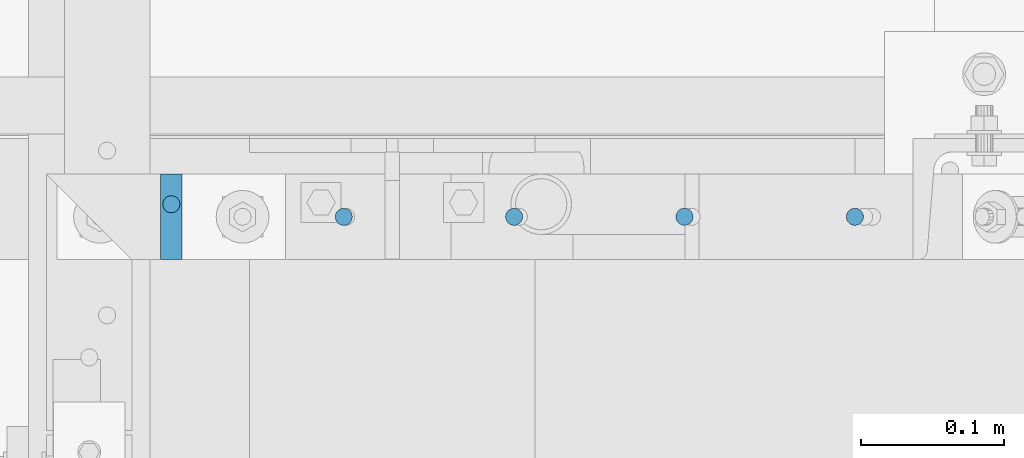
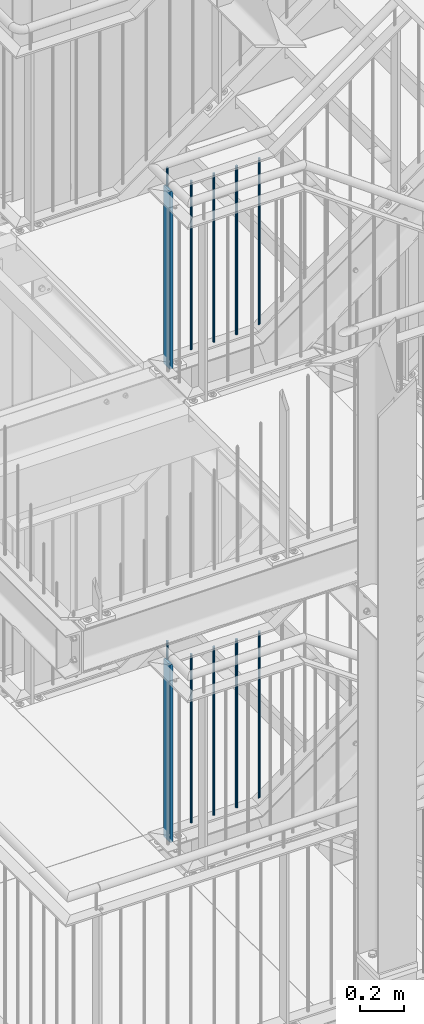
# One storey, part 26 of 821: 12 columns.
"""IFC2X3 building model written with IfcOpenShell, lengths in millimetres."""

import ifcopenshell
import ifcopenshell.guid

model = None  # the IFC model being written
_history = None  # IfcOwnerHistory: only IFC2X3 demands one
_inside = {}  # id of a spatial element -> (the spatial element, [elements in it])
_under = {}  # id of a project, library or spatial element -> (it, [spatial elements below it])
_declared = {}  # id of a project -> (the project, [libraries it declares])
_typed = {}  # id of a type object -> (the type object, [elements of that type])
_made_of = {}  # id of a material, layer set ... -> (it, [elements and type objects made of it])


def new_model(schema):
    """Start an empty IFC model of exactly this schema.

    Asked for "IFC4X3", IfcOpenShell would pick the latest addendum, in which some entities
    have other attributes; the version numbers below select the first issue.
    IFC2X3 requires an IfcOwnerHistory on every rooted entity: one is made here for all.
    """
    global model, _history
    if schema == "IFC4X3":
        model = ifcopenshell.file(schema_version=(4, 3, 0, 0))
    else:
        model = ifcopenshell.file(schema=schema)
    _inside.clear()
    _under.clear()
    _declared.clear()
    _typed.clear()
    _made_of.clear()
    _history = None
    if model.schema == "IFC2X3":
        org = make("IfcOrganization", Name="unknown")
        user = make(
            "IfcPersonAndOrganization",
            ThePerson=make("IfcPerson", FamilyName="unknown"),
            TheOrganization=org,
        )
        app = make(
            "IfcApplication",
            ApplicationDeveloper=org,
            Version="unknown",
            ApplicationFullName="unknown",
            ApplicationIdentifier="unknown",
        )
        _history = make(
            "IfcOwnerHistory",
            OwningUser=user,
            OwningApplication=app,
            ChangeAction="ADDED",
            CreationDate=0,
        )
    return model


def make(cls, **values):
    """One entity of the class cls with the attributes given. An attribute that is None is left unset."""
    return model.create_entity(
        cls, **{name: value for name, value in values.items() if value is not None}
    )


def entity(cls, *values):
    """Any entity or typed value of the class cls, its attributes in the order of the schema. None: left unset."""
    e = model.create_entity(cls)
    for i, value in enumerate(values):
        if value is not None:
            e[i] = value
    return e


def rooted(cls, **values):
    """An entity with a GlobalId (a new one), such as an element, a storey or a relation."""
    return make(cls, GlobalId=ifcopenshell.guid.new(), OwnerHistory=_history, **values)


def si_unit(unit_type, name, prefix=None):
    """IfcSIUnit, for example si_unit("LENGTHUNIT", "METRE", prefix="MILLI")."""
    return make("IfcSIUnit", UnitType=unit_type, Prefix=prefix, Name=name)


def converted_unit(unit_type, name, factor, base, dimensions=None, offset=None):
    """IfcConversionBasedUnit, such as the inch: factor (a typed value) times the base unit."""
    return make(
        "IfcConversionBasedUnit"
        if offset is None
        else "IfcConversionBasedUnitWithOffset",
        ConversionOffset=offset,
        Dimensions=None
        if dimensions is None
        else entity("IfcDimensionalExponents", *dimensions),
        UnitType=unit_type,
        Name=name,
        ConversionFactor=make(
            "IfcMeasureWithUnit", ValueComponent=factor, UnitComponent=base
        ),
    )


def assignment(units):
    """IfcUnitAssignment: the units of a project."""
    return None if units is None else make("IfcUnitAssignment", Units=units)


def point(xyz):
    """IfcCartesianPoint."""
    return None if xyz is None else make("IfcCartesianPoint", Coordinates=xyz)


def direction(xyz):
    """IfcDirection."""
    return None if xyz is None else make("IfcDirection", DirectionRatios=xyz)


def frame(location, z_axis=None, x_axis=None):
    """IfcAxis2Placement3D, a coordinate frame: its origin and axes. An axis left out is left unset."""
    return make(
        "IfcAxis2Placement3D",
        Location=point(location),
        Axis=direction(z_axis),
        RefDirection=direction(x_axis),
    )


def frame_2d(location, x_axis=None):
    """IfcAxis2Placement2D, a coordinate frame in the plane: its origin and x axis."""
    return make(
        "IfcAxis2Placement2D", Location=point(location), RefDirection=direction(x_axis)
    )


def origin():
    """The frame at (0, 0, 0) with its axes left unset."""
    return frame((0.0, 0.0, 0.0))


def origin_with_axes():
    """The frame at (0, 0, 0) with the z axis (0, 0, 1) and the x axis (1, 0, 0) written out."""
    return frame((0.0, 0.0, 0.0), z_axis=(0.0, 0.0, 1.0), x_axis=(1.0, 0.0, 0.0))


def origin_2d():
    """The frame at (0, 0) in the plane with its x axis left unset."""
    return frame_2d((0.0, 0.0))


def place(relative_to, where):
    """IfcLocalPlacement: puts the frame where relative to a parent placement (None: the world)."""
    return make(
        "IfcLocalPlacement", PlacementRelTo=relative_to, RelativePlacement=where
    )


def context(
    kind, dimensions, precision=None, world=None, true_north=None, identifier=None
):
    """IfcGeometricRepresentationContext, for example the 3D "Model" context."""
    return make(
        "IfcGeometricRepresentationContext",
        ContextIdentifier=identifier,
        ContextType=kind,
        CoordinateSpaceDimension=dimensions,
        Precision=precision,
        WorldCoordinateSystem=world,
        TrueNorth=true_north,
    )


def project(units=None, contexts=None):
    """IfcProject with its units and contexts."""
    return rooted(
        "IfcProject",
        Name="project",
        RepresentationContexts=contexts,
        UnitsInContext=assignment(units),
    )


def spatial(cls, under=None, at=None, **own):
    """A site, building, storey or space (cls), placed at a placement, below another one or the project."""
    s = rooted(cls, ObjectPlacement=at, **own)
    if under is not None:
        _under.setdefault(under.id(), (under, []))[1].append(s)
    return s


def profile(cls, at=None, kind="AREA", **sizes):
    """A parametric profile (cls). Its sizes go by their IFC names, for example OverallWidth=200.0."""
    return make(cls, ProfileType=kind, Position=at, **sizes)


def rectangle(**sizes):
    """IfcRectangleProfileDef."""
    return profile("IfcRectangleProfileDef", **sizes)


def circle(**sizes):
    """IfcCircleProfileDef."""
    return profile("IfcCircleProfileDef", **sizes)


def extrude(swept, where, along, depth):
    """IfcExtrudedAreaSolid: the profile swept, set in the frame where, extruded along a direction by depth."""
    return make(
        "IfcExtrudedAreaSolid",
        SweptArea=swept,
        Position=where,
        ExtrudedDirection=direction(along),
        Depth=depth,
    )


def clip(a, b, op="DIFFERENCE"):
    """IfcBooleanClippingResult: the solid a cut by the half space b."""
    return make(
        "IfcBooleanClippingResult", Operator=op, FirstOperand=a, SecondOperand=b
    )


def halfspace(plane, agree):
    """IfcHalfSpaceSolid: all space on one side of the plane z = 0 of the frame plane."""
    return make(
        "IfcHalfSpaceSolid",
        BaseSurface=make("IfcPlane", Position=plane),
        AgreementFlag=agree,
    )


def shape(context_of_items, identifier, shape_type, items):
    """IfcShapeRepresentation: the items that make up one representation, for example the "Body"."""
    return make(
        "IfcShapeRepresentation",
        ContextOfItems=context_of_items,
        RepresentationIdentifier=identifier,
        RepresentationType=shape_type,
        Items=items,
    )


def material(Name=None, Category=None):
    """IfcMaterial."""
    return make("IfcMaterial", Name=Name, Category=Category)


def made_of(thing, what):
    """Note that an element or type object is made of a material, layer set ...; save() writes the relation."""
    if what is not None:
        _made_of.setdefault(what.id(), (what, []))[1].append(thing)
    return thing


def element(
    cls,
    number,
    at=None,
    inside=None,
    cuts=None,
    type_object=None,
    material=None,
    context=None,
    identifier="Body",
    shape_type=None,
    held_by="IfcProductDefinitionShape",
    body=None,
    shapes=None,
    **own,
):
    """One element of the class cls, such as IfcWall. Its Tag is "e" and its number.

    at: its placement. inside: the storey or other place that contains it. cuts: it is an
    opening in that element (IfcRelVoidsElement). A single representation is given by context,
    identifier, shape_type and body (its items); several are given by shapes. held_by: the class
    of the entity that holds the representations. save() writes the other relations.
    """
    e = rooted(cls, Tag="e%d" % number, ObjectPlacement=at, **own)
    if body is not None:
        shapes = [shape(context, identifier, shape_type, body)]
    if shapes is not None:
        e.Representation = make(held_by, Representations=shapes)
    if inside is not None:
        _inside.setdefault(inside.id(), (inside, []))[1].append(e)
    if cuts is not None:
        rooted(
            "IfcRelVoidsElement", RelatingBuildingElement=cuts, RelatedOpeningElement=e
        )
    if type_object is not None:
        _typed.setdefault(type_object.id(), (type_object, []))[1].append(e)
    return made_of(e, material)


def aggregate(whole, parts):
    """IfcRelAggregates: a whole, such as a stair, and the parts it consists of."""
    return rooted("IfcRelAggregates", RelatingObject=whole, RelatedObjects=parts)


def save(model, path):
    """Write the relations noted so far, then the file.

    IfcRelAggregates (storeys below a building ...), IfcRelContainedInSpatialStructure (elements
    in a storey), IfcRelDefinesByType, IfcRelAssociatesMaterial and IfcRelDeclares: one each for
    every whole, place, type object, material and project.
    """
    for whole, parts in _under.values():
        aggregate(whole, parts)
    for where, things in _inside.values():
        rooted(
            "IfcRelContainedInSpatialStructure",
            RelatedElements=things,
            RelatingStructure=where,
        )
    for kind, things in _typed.values():
        rooted("IfcRelDefinesByType", RelatedObjects=things, RelatingType=kind)
    for what, things in _made_of.values():
        rooted("IfcRelAssociatesMaterial", RelatedObjects=things, RelatingMaterial=what)
    for by, libraries in _declared.values():
        rooted("IfcRelDeclares", RelatingContext=by, RelatedDefinitions=libraries)
    model.write(path)


model = new_model("IFC2X3")

# Units and contexts
model_context = context("Model", 3, precision=1e-09, world=origin_with_axes())
ifc_project = project(units=[si_unit("LENGTHUNIT", "METRE", prefix="MILLI"), si_unit("AREAUNIT", "SQUARE_METRE"), si_unit("VOLUMEUNIT", "CUBIC_METRE"), converted_unit("PLANEANGLEUNIT", "DEGREE", entity("IfcPlaneAngleMeasure", 0.01745329), si_unit("PLANEANGLEUNIT", "RADIAN"), dimensions=[0, 0, 0, 0, 0, 0, 0])], contexts=[model_context])

# Site, building, storey
site_placement = place(None, origin_with_axes())
site = spatial("IfcSite", under=ifc_project, at=site_placement, Name="Cnopf'sche Kinderklinik", CompositionType="ELEMENT")
building_placement = place(site_placement, origin_with_axes())
building = spatial("IfcBuilding", under=site, at=building_placement, Name="Struktur 1", CompositionType="ELEMENT")
storey_placement = place(building_placement, origin_with_axes())
storey = spatial("IfcBuildingStorey", under=building, at=storey_placement, Name="Default Storey", CompositionType="ELEMENT", Elevation=0.0)

# Columns
ifc_material = material(Name="S235JR")
column_1_placement = place(None, frame((4701.713402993, 6091.736971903, 8359.723292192), z_axis=(0.0, 0.0, 1.0), x_axis=(1.0, 0.0, 0.0)))
element("IfcColumn", 1, at=column_1_placement, inside=storey, material=ifc_material, Name="Railing_Post_Landing#0", ObjectType="Railing_Post_Landing#0", context=model_context, shape_type="Clipping", body=[
    clip(clip(extrude(rectangle(XDim=15.0, YDim=60.0, at=origin_2d()), origin(), (0.0, 0.0, -1.0), 1070.646584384), halfspace(frame((-4701.713402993, -6091.736971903, -1019.722292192), z_axis=(0.0, 0.0, 1.0), x_axis=(1.0, 0.0, 0.0)), True)), halfspace(frame((-4701.713402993, -6091.736971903, -30.924292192), z_axis=(0.0, 0.0, -1.0), x_axis=(-1.0, 0.0, 0.0)), True)),
])
column_2_placement = place(None, frame((4822.663402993, 6091.736971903, 8342.285281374), z_axis=(0.0, 0.0, 1.0), x_axis=(1.0, 0.0, 0.0)))
element("IfcColumn", 2, at=column_2_placement, inside=storey, material=ifc_material, Name="Railing_Picket_Landing#0", ObjectType="Railing_Picket_Landing#0", context=model_context, shape_type="Clipping", body=[
    clip(clip(extrude(circle(Radius=6.0, at=origin_2d()), origin(), (0.0, 0.0, -1.0), 965.770562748), halfspace(frame((-4822.663402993, -6091.736971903, -13.486281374), z_axis=(0.0, 0.0, -1.0), x_axis=(-1.0, 0.0, 0.0)), True)), halfspace(frame((-4822.663402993, -6091.736971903, -952.284281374), z_axis=(0.0, 0.0, 1.0), x_axis=(1.0, 0.0, 0.0)), True)),
])
column_3_placement = place(None, frame((4942.113465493, 6091.736971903, 8342.285281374), z_axis=(0.0, 0.0, 1.0), x_axis=(1.0, 0.0, 0.0)))
element("IfcColumn", 3, at=column_3_placement, inside=storey, material=ifc_material, Name="Railing_Picket_Landing#1", ObjectType="Railing_Picket_Landing#1", context=model_context, shape_type="Clipping", body=[
    clip(clip(extrude(circle(Radius=6.0, at=origin_2d()), origin(), (0.0, 0.0, -1.0), 965.770562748), halfspace(frame((-4942.113465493, -6091.736971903, -13.486281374), z_axis=(0.0, 0.0, -1.0), x_axis=(-1.0, 0.0, 0.0)), True)), halfspace(frame((-4942.113465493, -6091.736971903, -952.284281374), z_axis=(0.0, 0.0, 1.0), x_axis=(1.0, 0.0, 0.0)), True)),
])
column_4_placement = place(None, frame((5061.563527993, 6091.736971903, 8342.285281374), z_axis=(0.0, 0.0, 1.0), x_axis=(1.0, 0.0, 0.0)))
element("IfcColumn", 4, at=column_4_placement, inside=storey, material=ifc_material, Name="Railing_Picket_Landing#2", ObjectType="Railing_Picket_Landing#2", context=model_context, shape_type="Clipping", body=[
    clip(clip(extrude(circle(Radius=6.0, at=origin_2d()), origin(), (0.0, 0.0, -1.0), 965.770562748), halfspace(frame((-5061.563527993, -6091.736971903, -13.486281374), z_axis=(0.0, 0.0, -1.0), x_axis=(-1.0, 0.0, 0.0)), True)), halfspace(frame((-5061.563527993, -6091.736971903, -952.284281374), z_axis=(0.0, 0.0, 1.0), x_axis=(1.0, 0.0, 0.0)), True)),
])
column_5_placement = place(None, frame((5181.013590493, 6091.736971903, 8328.8), z_axis=(0.0, 0.0, 1.0), x_axis=(1.0, 0.0, 0.0)))
element("IfcColumn", 5, at=column_5_placement, inside=storey, material=ifc_material, Name="Railing_Picket_Stair#3", ObjectType="Railing_Picket_Stair#3", context=model_context, shape_type="Clipping", body=[
    clip(extrude(circle(Radius=6.0, at=origin_2d()), origin(), (0.0, 0.0, -1.0), 933.16398669), halfspace(frame((-6918.782017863, -6091.736971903, -5925.503238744), z_axis=(-0.585945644, 0.0, 0.810350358), x_axis=(0.0, -1.0, 0.0)), True)),
])
column_6_placement = place(None, frame((4701.713402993, 6100.536971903, 8447.285281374), z_axis=(0.0, 0.0, 1.0), x_axis=(0.0, -1.0, 0.0)))
element("IfcColumn", 6, at=column_6_placement, inside=storey, material=ifc_material, Name="Bar#0", ObjectType="Bar#0", context=model_context, shape_type="Clipping", body=[
    clip(clip(extrude(circle(Radius=6.0, at=origin_2d()), origin(), (0.0, 0.0, -1.0), 116.970562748), halfspace(frame((6100.536971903, -4701.713402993, -8.486281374), z_axis=(0.0, 0.0, -1.0), x_axis=(0.0, -1.0, 0.0)), True)), halfspace(frame((6100.536971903, -4701.713402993, -108.484281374), z_axis=(0.0, 0.0, 1.0), x_axis=(0.0, 1.0, 0.0)), True)),
])
column_7_placement = place(None, frame((4701.713402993, 6091.736971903, 10991.723292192), z_axis=(0.0, 0.0, 1.0), x_axis=(1.0, 0.0, 0.0)))
element("IfcColumn", 7, at=column_7_placement, inside=storey, material=ifc_material, Name="Railing_Post_Landing#0", ObjectType="Railing_Post_Landing#0", context=model_context, shape_type="Clipping", body=[
    clip(clip(extrude(rectangle(XDim=15.0, YDim=60.0, at=origin_2d()), origin(), (0.0, 0.0, -1.0), 1070.646584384), halfspace(frame((-4701.713402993, -6091.736971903, -1019.722292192), z_axis=(0.0, 0.0, 1.0), x_axis=(1.0, 0.0, 0.0)), True)), halfspace(frame((-4701.713402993, -6091.736971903, -30.924292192), z_axis=(0.0, 0.0, -1.0), x_axis=(-1.0, 0.0, 0.0)), True)),
])
column_8_placement = place(None, frame((4822.663402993, 6091.736971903, 10974.285281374), z_axis=(0.0, 0.0, 1.0), x_axis=(1.0, 0.0, 0.0)))
element("IfcColumn", 8, at=column_8_placement, inside=storey, material=ifc_material, Name="Railing_Picket_Landing#0", ObjectType="Railing_Picket_Landing#0", context=model_context, shape_type="Clipping", body=[
    clip(clip(extrude(circle(Radius=6.0, at=origin_2d()), origin(), (0.0, 0.0, -1.0), 965.770562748), halfspace(frame((-4822.663402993, -6091.736971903, -13.486281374), z_axis=(0.0, 0.0, -1.0), x_axis=(-1.0, 0.0, 0.0)), True)), halfspace(frame((-4822.663402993, -6091.736971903, -952.284281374), z_axis=(0.0, 0.0, 1.0), x_axis=(1.0, 0.0, 0.0)), True)),
])
column_9_placement = place(None, frame((4942.113465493, 6091.736971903, 10974.285281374), z_axis=(0.0, 0.0, 1.0), x_axis=(1.0, 0.0, 0.0)))
element("IfcColumn", 9, at=column_9_placement, inside=storey, material=ifc_material, Name="Railing_Picket_Landing#1", ObjectType="Railing_Picket_Landing#1", context=model_context, shape_type="Clipping", body=[
    clip(clip(extrude(circle(Radius=6.0, at=origin_2d()), origin(), (0.0, 0.0, -1.0), 965.770562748), halfspace(frame((-4942.113465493, -6091.736971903, -13.486281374), z_axis=(0.0, 0.0, -1.0), x_axis=(-1.0, 0.0, 0.0)), True)), halfspace(frame((-4942.113465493, -6091.736971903, -952.284281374), z_axis=(0.0, 0.0, 1.0), x_axis=(1.0, 0.0, 0.0)), True)),
])
column_10_placement = place(None, frame((5061.563527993, 6091.736971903, 10974.285281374), z_axis=(0.0, 0.0, 1.0), x_axis=(1.0, 0.0, 0.0)))
element("IfcColumn", 10, at=column_10_placement, inside=storey, material=ifc_material, Name="Railing_Picket_Landing#2", ObjectType="Railing_Picket_Landing#2", context=model_context, shape_type="Clipping", body=[
    clip(extrude(circle(Radius=6.0, at=origin_2d()), origin(), (0.0, 0.0, -1.0), 952.285281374), halfspace(frame((-5061.563527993, -6091.736971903, -13.486281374), z_axis=(0.0, 0.0, -1.0), x_axis=(-1.0, 0.0, 0.0)), True)),
])
column_11_placement = place(None, frame((5181.013590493, 6091.736971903, 10960.8), z_axis=(0.0, 0.0, 1.0), x_axis=(1.0, 0.0, 0.0)))
element("IfcColumn", 11, at=column_11_placement, inside=storey, material=ifc_material, Name="Railing_Picket_Stair#3", ObjectType="Railing_Picket_Stair#3", context=model_context, shape_type="Clipping", body=[
    clip(extrude(circle(Radius=6.0, at=origin_2d()), origin(), (0.0, 0.0, -1.0), 933.136956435), halfspace(frame((-8170.114034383, -6091.736971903, -6819.069656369), z_axis=(-0.585213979, 0.0, 0.810878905), x_axis=(0.0, -1.0, 0.0)), True)),
])
column_12_placement = place(None, frame((4701.713402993, 6100.536971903, 11079.285281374), z_axis=(0.0, 0.0, 1.0), x_axis=(0.0, -1.0, 0.0)))
element("IfcColumn", 12, at=column_12_placement, inside=storey, material=ifc_material, Name="Bar#0", ObjectType="Bar#0", context=model_context, shape_type="Clipping", body=[
    clip(clip(extrude(circle(Radius=6.0, at=origin_2d()), origin(), (0.0, 0.0, -1.0), 116.970562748), halfspace(frame((6100.536971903, -4701.713402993, -8.486281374), z_axis=(0.0, 0.0, -1.0), x_axis=(0.0, -1.0, 0.0)), True)), halfspace(frame((6100.536971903, -4701.713402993, -108.484281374), z_axis=(0.0, 0.0, 1.0), x_axis=(0.0, 1.0, 0.0)), True)),
])

save(model, "model.ifc")
